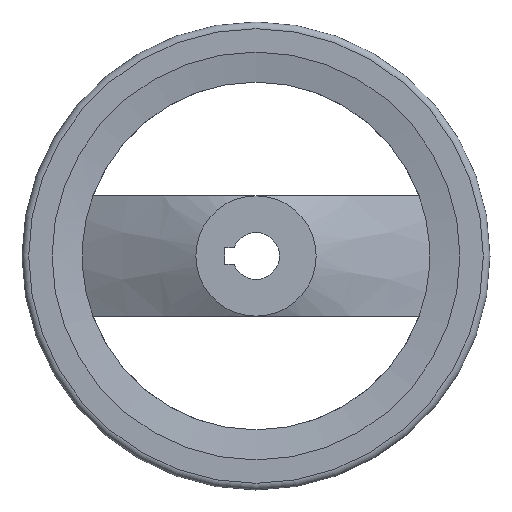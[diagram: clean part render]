
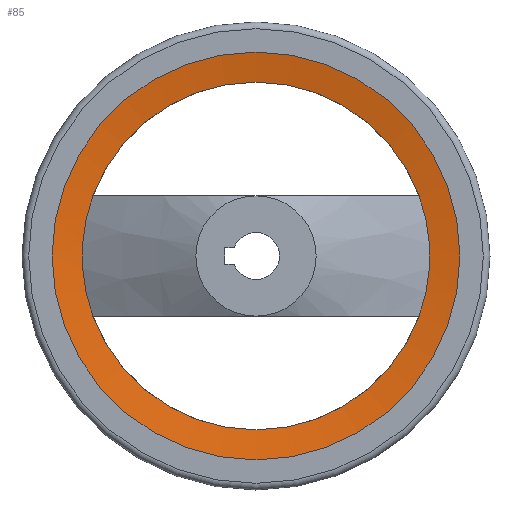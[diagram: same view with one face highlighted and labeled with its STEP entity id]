
A CAD part, left-side view. The second image highlights one B-rep face of the part: STEP entity #85.
In plain terms, the highlighted conical face has half-angle 80.399 degrees and reference radius 52 mm.
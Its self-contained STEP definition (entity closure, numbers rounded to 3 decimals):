
#85 = ADVANCED_FACE( '', ( #122, #123 ), #124, .F. );
#122 = FACE_OUTER_BOUND( '', #178, .T. );
#123 = FACE_BOUND( '', #179, .T. );
#124 = CONICAL_SURFACE( '', #180, 52., 1.403 );
#178 = EDGE_LOOP( '', ( #282 ) );
#179 = EDGE_LOOP( '', ( #283, #284, #285, #286 ) );
#180 = AXIS2_PLACEMENT_3D( '', #287, #288, #289 );
#282 = ORIENTED_EDGE( '', *, *, #388, .T. );
#283 = ORIENTED_EDGE( '', *, *, #389, .F. );
#284 = ORIENTED_EDGE( '', *, *, #390, .T. );
#285 = ORIENTED_EDGE( '', *, *, #391, .F. );
#286 = ORIENTED_EDGE( '', *, *, #392, .T. );
#287 = CARTESIAN_POINT( '', ( 21.022, 0., 0. ) );
#288 = DIRECTION( '', ( -1., 0., 0. ) );
#289 = DIRECTION( '', ( 0., 0., 1. ) );
#388 = EDGE_CURVE( '', #450, #450, #451, .T. );
#389 = EDGE_CURVE( '', #452, #406, #453, .T. );
#390 = EDGE_CURVE( '', #452, #454, #455, .F. );
#391 = EDGE_CURVE( '', #412, #454, #456, .T. );
#392 = EDGE_CURVE( '', #412, #406, #457, .F. );
#406 = VERTEX_POINT( '', #478 );
#412 = VERTEX_POINT( '', #521 );
#450 = VERTEX_POINT( '', #621 );
#451 = CIRCLE( '', #622, 61. );
#452 = VERTEX_POINT( '', #623 );
#453 = CIRCLE( '', #624, 52. );
#454 = VERTEX_POINT( '', #625 );
#455 = CIRCLE( '', #626, 52. );
#456 = CIRCLE( '', #627, 52. );
#457 = CIRCLE( '', #628, 52. );
#478 = CARTESIAN_POINT( '', ( 21.022, -48.785, 18. ) );
#521 = CARTESIAN_POINT( '', ( 21.022, 48.785, 18. ) );
#621 = CARTESIAN_POINT( '', ( 19.5, 0., 61. ) );
#622 = AXIS2_PLACEMENT_3D( '', #738, #739, #740 );
#623 = CARTESIAN_POINT( '', ( 21.022, -48.785, -18. ) );
#624 = AXIS2_PLACEMENT_3D( '', #741, #742, #743 );
#625 = CARTESIAN_POINT( '', ( 21.022, 48.785, -18. ) );
#626 = AXIS2_PLACEMENT_3D( '', #744, #745, #746 );
#627 = AXIS2_PLACEMENT_3D( '', #747, #748, #749 );
#628 = AXIS2_PLACEMENT_3D( '', #750, #751, #752 );
#738 = CARTESIAN_POINT( '', ( 19.5, 0., 0. ) );
#739 = DIRECTION( '', ( -1., 0., 0. ) );
#740 = DIRECTION( '', ( 0., 0., 1. ) );
#741 = CARTESIAN_POINT( '', ( 21.022, 0., 0. ) );
#742 = DIRECTION( '', ( -1., 0., 0. ) );
#743 = DIRECTION( '', ( 0., 0., 1. ) );
#744 = CARTESIAN_POINT( '', ( 21.022, 0., 0. ) );
#745 = DIRECTION( '', ( -1., 0., 0. ) );
#746 = DIRECTION( '', ( 0., 0., 1. ) );
#747 = CARTESIAN_POINT( '', ( 21.022, 0., 0. ) );
#748 = DIRECTION( '', ( -1., 0., 0. ) );
#749 = DIRECTION( '', ( 0., 0., 1. ) );
#750 = CARTESIAN_POINT( '', ( 21.022, 0., 0. ) );
#751 = DIRECTION( '', ( -1., 0., 0. ) );
#752 = DIRECTION( '', ( 0., 0., 1. ) );
